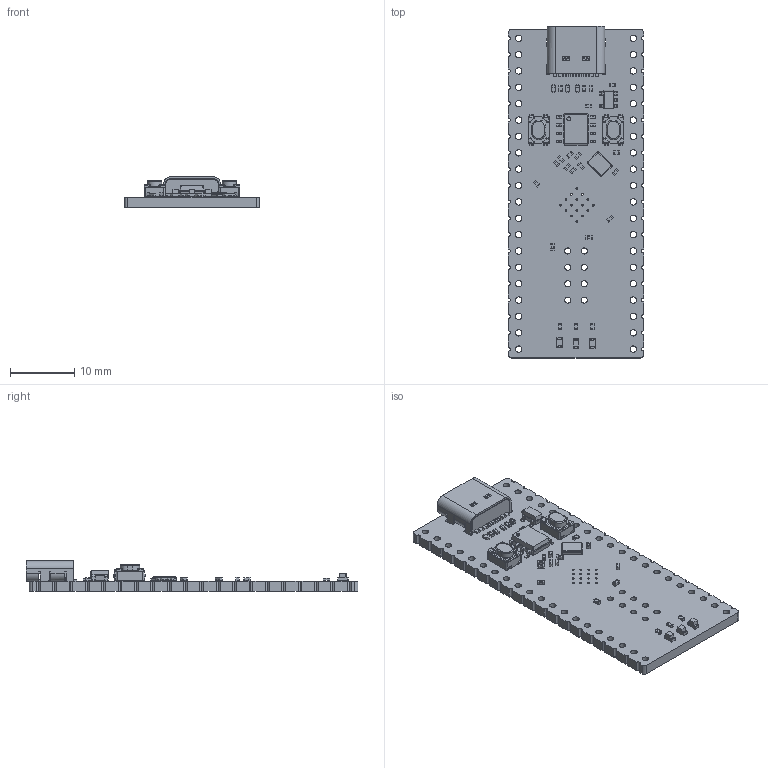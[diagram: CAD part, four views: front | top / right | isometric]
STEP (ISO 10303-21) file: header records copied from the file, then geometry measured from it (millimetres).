
FILE_DESCRIPTION(('KiCad electronic assembly'),'2;1');
FILE_NAME('Air103-Board.step','2022-03-15T17:06:36',('Pcbnew'),('Kicad') ,'Open CASCADE STEP processor 7.5','KiCad to STEP converter','Unknown' );
FILE_SCHEMA(('AUTOMOTIVE_DESIGN { 1 0 10303 214 1 1 1 1 }'));
Length unit declared in the file: millimetre
Products named in the file (22): Air103-Board 1; C_0402_1005Metric; SOLID; Crystal_SMD_3225-4Pin_3.2x2.5mm; R_0402_1005Metric; PTS815SJK250; COMPOUND; SOT-23-5; SOIC-8_3.9x4.9mm_P1.27mm; USB Type C Port (SMD Type); LED_0603_1608Metric; D_PowerDI-123; _autosave-Air103-Board PCB
Assembly tree (44 placements, depth 3):
  Air103-Board 1
    C_0402_1005Metric  x13
      SOLID
    Crystal_SMD_3225-4Pin_3.2x2.5mm
      SOLID
    R_0402_1005Metric  x8
      SOLID
    PTS815SJK250  x2
      COMPOUND
    SOT-23-5
      SOLID
    SOIC-8_3.9x4.9mm_P1.27mm
      SOLID
    USB Type C Port (SMD Type)
      COMPOUND
    LED_0603_1608Metric  x3
      SOLID
    D_PowerDI-123
      SOLID
    D_PowerDI-123  x2
      SOLID
    _autosave-Air103-Board PCB
Bounding box: 21 x 51.52 x 4.75 mm (x, y, z)
Volume: 1856.5 mm3; surface area: 3593.3 mm2
Topology: 65 solids, 65 shells, 2120 faces, 5504 edges, 3598 vertices
Faces by surface type: bspline 1928, cylinder 138, plane 54
Full cylindrical faces by diameter (mm): 0.3 x16, 0.6 x2, 0.94 x8, 1 x40
Entity records: 82273 total; most frequent: CARTESIAN_POINT 30647, B_SPLINE_CURVE_WITH_KNOTS 7191, ORIENTED_EDGE 6506, PCURVE 6506, DEFINITIONAL_REPRESENTATION 6506, EDGE_CURVE 3253, SURFACE_CURVE 3177, VERTEX_POINT 2088
